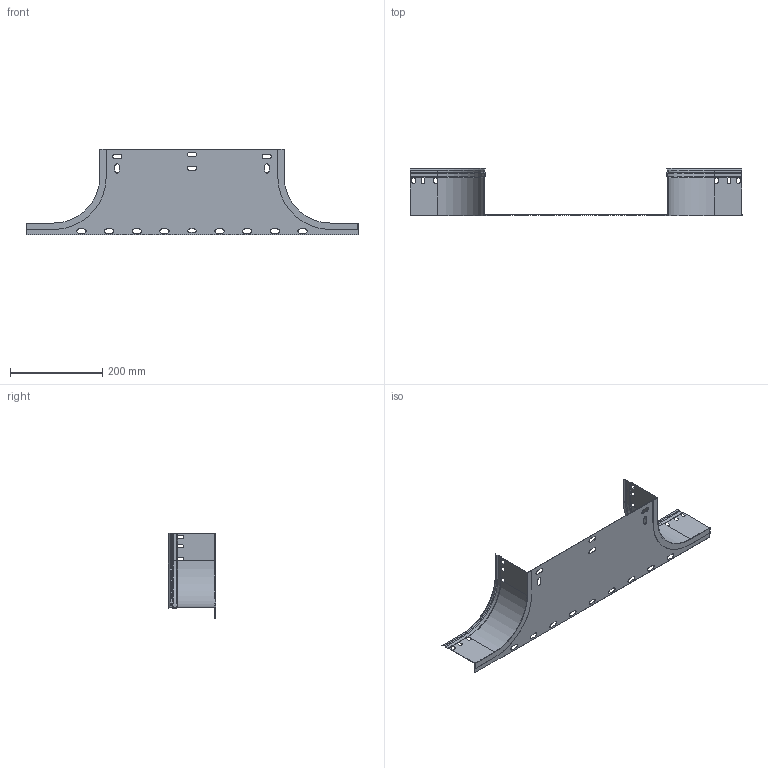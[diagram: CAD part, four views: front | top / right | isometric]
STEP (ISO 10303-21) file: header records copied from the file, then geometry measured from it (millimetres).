
FILE_DESCRIPTION (( 'STEP AP203' ), '1' );
FILE_NAME ('ERE_AS 400x100.step', '2023-07-27T18:50:42', ( '' ), ( '' ), 'SwSTEP 2.0', 'SolidWorks 2022', '' );
FILE_SCHEMA (( 'CONFIG_CONTROL_DESIGN' ));
Length unit declared in the file: millimetre
Products named in the file (3): ERE_BASE AS_400; ERE_AS 400x100; ERE_LATERAL AS_100
Assembly tree (3 placements, depth 2):
  ERE_AS 400x100
    ERE_BASE AS_400
    ERE_LATERAL AS_100  x2
Bounding box: 720 x 102 x 185.5 mm (x, y, z)
Volume: 131615 mm3; surface area: 300727.6 mm2
Topology: 3 solids, 3 shells, 226 faces, 648 edges, 404 vertices
Faces by surface type: plane 140, cylinder 72, cone 14
Entity records: 5303 total; most frequent: CARTESIAN_POINT 874, ORIENTED_EDGE 864, DIRECTION 862, EDGE_CURVE 432, LINE 306, VECTOR 306, AXIS2_PLACEMENT_3D 278, VERTEX_POINT 274
